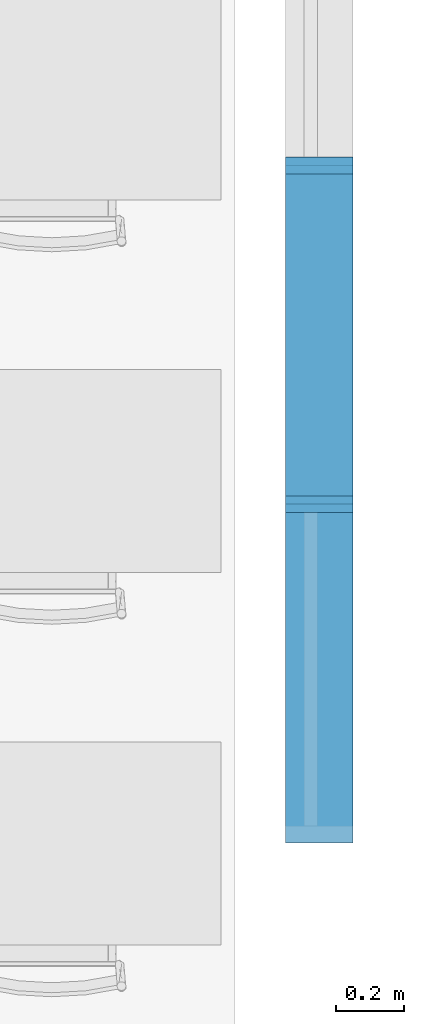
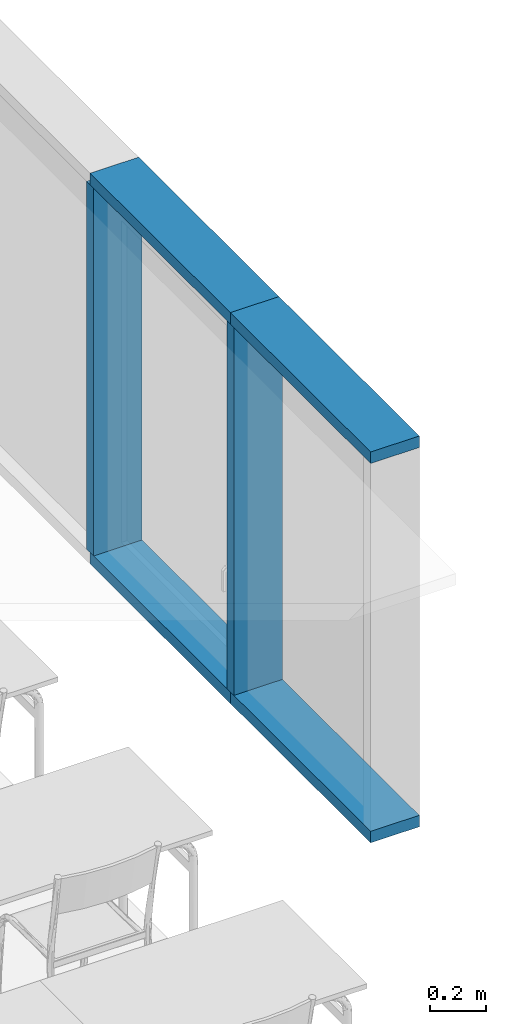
# One storey, part 6 of 44: 18 members, 3 elements without a shape of their own.
"""IFC2X3 building model written with IfcOpenShell, lengths in centimetres."""

from ifc_helpers import new_model, entity, si_unit, converted_unit, derived_unit, direction, frame, frame_2d, origin, origin_2d_with_axis, place, context, subcontext, project, spatial, rectangle, extrude, material, type_object, element, aggregate, save


model = new_model("IFC2X3")

# Units and contexts
model_context = context("Model", 3, precision=0.001, world=origin(), true_north=direction((6.12303176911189e-17, 1.0)))
body_context = subcontext(model_context, "Body", "Model", "MODEL_VIEW")
ifc_project = project(units=[si_unit("LENGTHUNIT", "METRE", prefix="CENTI"), si_unit("AREAUNIT", "SQUARE_METRE"), si_unit("VOLUMEUNIT", "CUBIC_METRE"), converted_unit("PLANEANGLEUNIT", "DEGREE", entity("IfcRatioMeasure", 0.0174532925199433), si_unit("PLANEANGLEUNIT", "RADIAN"), dimensions=[0, 0, 0, 0, 0, 0, 0]), si_unit("MASSUNIT", "GRAM", prefix="KILO"), si_unit("TIMEUNIT", "SECOND"), si_unit("FREQUENCYUNIT", "HERTZ"), si_unit("THERMODYNAMICTEMPERATUREUNIT", "DEGREE_CELSIUS"), derived_unit("THERMALTRANSMITTANCEUNIT", [(si_unit("MASSUNIT", "GRAM", prefix="KILO"), 1), (si_unit("THERMODYNAMICTEMPERATUREUNIT", "KELVIN"), -1), (si_unit("TIMEUNIT", "SECOND"), -3)]), derived_unit("VOLUMETRICFLOWRATEUNIT", [(si_unit("LENGTHUNIT", "METRE"), 3), (si_unit("TIMEUNIT", "SECOND"), -1)]), si_unit("ELECTRICCURRENTUNIT", "AMPERE"), si_unit("ELECTRICVOLTAGEUNIT", "VOLT"), si_unit("POWERUNIT", "WATT"), si_unit("FORCEUNIT", "NEWTON", prefix="KILO"), si_unit("ILLUMINANCEUNIT", "LUX"), si_unit("LUMINOUSFLUXUNIT", "LUMEN"), si_unit("LUMINOUSINTENSITYUNIT", "CANDELA"), derived_unit("USERDEFINED", [(si_unit("MASSUNIT", "GRAM", prefix="KILO"), -1), (si_unit("LENGTHUNIT", "METRE"), -2), (si_unit("TIMEUNIT", "SECOND"), 3), (si_unit("LUMINOUSFLUXUNIT", "LUMEN"), 1)]), derived_unit("LINEARVELOCITYUNIT", [(si_unit("LENGTHUNIT", "METRE"), 1), (si_unit("TIMEUNIT", "SECOND"), -1)]), si_unit("PRESSUREUNIT", "PASCAL"), derived_unit("USERDEFINED", [(si_unit("LENGTHUNIT", "METRE"), -2), (si_unit("MASSUNIT", "GRAM", prefix="KILO"), 1), (si_unit("TIMEUNIT", "SECOND"), -2)])], contexts=[model_context])

# Site, building, storey
site_placement = place(None, frame((8.62739174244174, -249.285249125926, 0.0)))
site = spatial("IfcSite", under=ifc_project, at=site_placement, Name="Default", CompositionType="ELEMENT")
building_placement = place(site_placement, origin())
building = spatial("IfcBuilding", under=site, at=building_placement, CompositionType="ELEMENT")
storey_placement = place(building_placement, frame((0.0, 0.0, 343.0)))
storey = spatial("IfcBuildingStorey", under=building, at=storey_placement, Name="R+1", CompositionType="ELEMENT", Elevation=343.0)

# Curtain wall, members
curtain_wall_type = type_object("IfcCurtainWallType", Name="Mur-rideau:Simple panneau", PredefinedType="NOTDEFINED")
curtain_wall_1_placement = place(storey_placement, frame((0.0, 0.0, -343.0)))
curtain_wall_1 = element("IfcCurtainWall", 1, at=curtain_wall_1_placement, inside=storey, type_object=curtain_wall_type, Name="Mur-rideau:Simple panneau", ObjectType="Mur-rideau:Simple panneau")
ifc_material = material(Name="Plastique, blanc opaque")
member_1_placement = place(curtain_wall_1_placement, frame((0.0, 0.0, 343.0)))
member_1 = element("IfcMember", 2, at=member_1_placement, material=ifc_material, Name="Mur-rideau:Simple panneau", ObjectType="Mur-rideau:Simple panneau", context=body_context, shape_type="SweptSolid", body=[
    extrude(rectangle(XDim=4.99999999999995, YDim=20.0000000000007, at=origin_2d_with_axis()), frame((4003.90482781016, 2741.68519336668, 275.499999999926), z_axis=(0.0, 1.0, 0.0), x_axis=(0.0, 0.0, -1.0)), (0.0, 0.0, 1.0), 100.000000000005),
])
member_2_placement = place(curtain_wall_1_placement, frame((0.0, 0.0, 343.0)))
member_2 = element("IfcMember", 3, at=member_2_placement, material=ifc_material, Name="Mur-rideau:Simple panneau", ObjectType="Mur-rideau:Simple panneau", context=body_context, shape_type="SweptSolid", body=[
    extrude(rectangle(XDim=20.0000000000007, YDim=4.99999999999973, at=origin_2d_with_axis()), frame((4003.90482781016, 2841.68519336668, 113.0), z_axis=(0.0, 0.0, 1.0), x_axis=(-1.0, 0.0, 0.0)), (0.0, 0.0, 1.0), 160.0),
])
member_3_placement = place(curtain_wall_1_placement, frame((0.0, 0.0, 343.0)))
member_3 = element("IfcMember", 4, at=member_3_placement, material=ifc_material, Name="Mur-rideau:Simple panneau", ObjectType="Mur-rideau:Simple panneau", context=body_context, shape_type="SweptSolid", body=[
    extrude(rectangle(XDim=20.0000000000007, YDim=4.99999999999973, at=origin_2d_with_axis()), frame((4003.90482781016, 2941.68519336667, 113.0), z_axis=(0.0, 0.0, 1.0), x_axis=(-1.0, 0.0, 0.0)), (0.0, 0.0, 1.0), 160.0),
])
member_4_placement = place(curtain_wall_1_placement, frame((0.0, 0.0, 343.0)))
member_4 = element("IfcMember", 5, at=member_4_placement, material=ifc_material, Name="Mur-rideau:Simple panneau", ObjectType="Mur-rideau:Simple panneau", context=body_context, shape_type="SweptSolid", body=[
    extrude(rectangle(XDim=5.0, YDim=20.0000000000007, at=frame_2d((-2.70894418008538e-14, 0.0), x_axis=(1.0, 0.0))), frame((4003.90482781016, 2841.68519336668, 110.499999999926), z_axis=(0.0, -1.0, 0.0), x_axis=(0.0, 0.0, -1.0)), (0.0, 0.0, 1.0), 100.000000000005),
])
member_5_placement = place(curtain_wall_1_placement, frame((0.0, 0.0, 343.0)))
member_5 = element("IfcMember", 6, at=member_5_placement, material=ifc_material, Name="Mur-rideau:Simple panneau", ObjectType="Mur-rideau:Simple panneau", context=body_context, shape_type="SweptSolid", body=[
    extrude(rectangle(XDim=5.0, YDim=20.0000000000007, at=frame_2d((-2.70894418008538e-14, 0.0), x_axis=(1.0, 0.0))), frame((4003.90482781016, 2941.68519336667, 110.499999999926), z_axis=(0.0, -1.0, 0.0), x_axis=(0.0, 0.0, -1.0)), (0.0, 0.0, 1.0), 99.9999999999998),
])
member_6_placement = place(curtain_wall_1_placement, frame((0.0, 0.0, 343.0)))
member_6 = element("IfcMember", 7, at=member_6_placement, material=ifc_material, Name="Mur-rideau:Simple panneau", ObjectType="Mur-rideau:Simple panneau", context=body_context, shape_type="SweptSolid", body=[
    extrude(rectangle(XDim=4.99999999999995, YDim=20.0000000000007, at=origin_2d_with_axis()), frame((4003.90482781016, 2841.68519336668, 275.499999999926), z_axis=(0.0, 1.0, 0.0), x_axis=(0.0, 0.0, -1.0)), (0.0, 0.0, 1.0), 99.9999999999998),
])
aggregate(curtain_wall_1, [member_1, member_2, member_3, member_4, member_5, member_6])

curtain_wall_2_placement = place(storey_placement, frame((0.0, 0.0, -343.0)))
curtain_wall_2 = element("IfcCurtainWall", 8, at=curtain_wall_2_placement, inside=storey, type_object=curtain_wall_type, Name="Mur-rideau:Simple panneau", ObjectType="Mur-rideau:Simple panneau")
member_7_placement = place(curtain_wall_2_placement, frame((0.0, 0.0, 343.0)))
member_7 = element("IfcMember", 9, at=member_7_placement, material=ifc_material, Name="Mur-rideau:Simple panneau", ObjectType="Mur-rideau:Simple panneau", context=body_context, shape_type="SweptSolid", body=[
    extrude(rectangle(XDim=4.99999999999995, YDim=20.0000000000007, at=origin_2d_with_axis()), frame((4003.90482781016, 2741.68519336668, 275.499999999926), z_axis=(0.0, 1.0, 0.0), x_axis=(0.0, 0.0, -1.0)), (0.0, 0.0, 1.0), 100.000000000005),
])
member_8_placement = place(curtain_wall_2_placement, frame((0.0, 0.0, 343.0)))
member_8 = element("IfcMember", 10, at=member_8_placement, material=ifc_material, Name="Mur-rideau:Simple panneau", ObjectType="Mur-rideau:Simple panneau", context=body_context, shape_type="SweptSolid", body=[
    extrude(rectangle(XDim=20.0000000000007, YDim=4.99999999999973, at=origin_2d_with_axis()), frame((4003.90482781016, 2841.68519336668, 113.0), z_axis=(0.0, 0.0, 1.0), x_axis=(-1.0, 0.0, 0.0)), (0.0, 0.0, 1.0), 160.0),
])
member_9_placement = place(curtain_wall_2_placement, frame((0.0, 0.0, 343.0)))
member_9 = element("IfcMember", 11, at=member_9_placement, material=ifc_material, Name="Mur-rideau:Simple panneau", ObjectType="Mur-rideau:Simple panneau", context=body_context, shape_type="SweptSolid", body=[
    extrude(rectangle(XDim=20.0000000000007, YDim=4.99999999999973, at=origin_2d_with_axis()), frame((4003.90482781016, 2941.68519336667, 113.0), z_axis=(0.0, 0.0, 1.0), x_axis=(-1.0, 0.0, 0.0)), (0.0, 0.0, 1.0), 160.0),
])
member_10_placement = place(curtain_wall_2_placement, frame((0.0, 0.0, 343.0)))
member_10 = element("IfcMember", 12, at=member_10_placement, material=ifc_material, Name="Mur-rideau:Simple panneau", ObjectType="Mur-rideau:Simple panneau", context=body_context, shape_type="SweptSolid", body=[
    extrude(rectangle(XDim=5.0, YDim=20.0000000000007, at=frame_2d((-2.70894418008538e-14, 0.0), x_axis=(1.0, 0.0))), frame((4003.90482781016, 2841.68519336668, 110.499999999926), z_axis=(0.0, -1.0, 0.0), x_axis=(0.0, 0.0, -1.0)), (0.0, 0.0, 1.0), 100.000000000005),
])
member_11_placement = place(curtain_wall_2_placement, frame((0.0, 0.0, 343.0)))
member_11 = element("IfcMember", 13, at=member_11_placement, material=ifc_material, Name="Mur-rideau:Simple panneau", ObjectType="Mur-rideau:Simple panneau", context=body_context, shape_type="SweptSolid", body=[
    extrude(rectangle(XDim=5.0, YDim=20.0000000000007, at=frame_2d((-2.70894418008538e-14, 0.0), x_axis=(1.0, 0.0))), frame((4003.90482781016, 2941.68519336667, 110.499999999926), z_axis=(0.0, -1.0, 0.0), x_axis=(0.0, 0.0, -1.0)), (0.0, 0.0, 1.0), 99.9999999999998),
])
member_12_placement = place(curtain_wall_2_placement, frame((0.0, 0.0, 343.0)))
member_12 = element("IfcMember", 14, at=member_12_placement, material=ifc_material, Name="Mur-rideau:Simple panneau", ObjectType="Mur-rideau:Simple panneau", context=body_context, shape_type="SweptSolid", body=[
    extrude(rectangle(XDim=4.99999999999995, YDim=20.0000000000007, at=origin_2d_with_axis()), frame((4003.90482781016, 2841.68519336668, 275.499999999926), z_axis=(0.0, 1.0, 0.0), x_axis=(0.0, 0.0, -1.0)), (0.0, 0.0, 1.0), 99.9999999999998),
])
aggregate(curtain_wall_2, [member_7, member_8, member_9, member_10, member_11, member_12])

curtain_wall_3_placement = place(storey_placement, frame((0.0, 0.0, -343.0)))
curtain_wall_3 = element("IfcCurtainWall", 15, at=curtain_wall_3_placement, inside=storey, type_object=curtain_wall_type, Name="Mur-rideau:Simple panneau", ObjectType="Mur-rideau:Simple panneau")
member_13_placement = place(curtain_wall_3_placement, frame((0.0, 0.0, 343.0)))
member_13 = element("IfcMember", 16, at=member_13_placement, material=ifc_material, Name="Mur-rideau:Simple panneau", ObjectType="Mur-rideau:Simple panneau", context=body_context, shape_type="SweptSolid", body=[
    extrude(rectangle(XDim=4.99999999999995, YDim=20.0000000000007, at=origin_2d_with_axis()), frame((4003.90482781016, 2741.68519336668, 275.499999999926), z_axis=(0.0, 1.0, 0.0), x_axis=(0.0, 0.0, -1.0)), (0.0, 0.0, 1.0), 100.000000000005),
])
member_14_placement = place(curtain_wall_3_placement, frame((0.0, 0.0, 343.0)))
member_14 = element("IfcMember", 17, at=member_14_placement, material=ifc_material, Name="Mur-rideau:Simple panneau", ObjectType="Mur-rideau:Simple panneau", context=body_context, shape_type="SweptSolid", body=[
    extrude(rectangle(XDim=20.0000000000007, YDim=4.99999999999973, at=origin_2d_with_axis()), frame((4003.90482781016, 2841.68519336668, 113.0), z_axis=(0.0, 0.0, 1.0), x_axis=(-1.0, 0.0, 0.0)), (0.0, 0.0, 1.0), 160.0),
])
member_15_placement = place(curtain_wall_3_placement, frame((0.0, 0.0, 343.0)))
member_15 = element("IfcMember", 18, at=member_15_placement, material=ifc_material, Name="Mur-rideau:Simple panneau", ObjectType="Mur-rideau:Simple panneau", context=body_context, shape_type="SweptSolid", body=[
    extrude(rectangle(XDim=20.0000000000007, YDim=4.99999999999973, at=origin_2d_with_axis()), frame((4003.90482781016, 2941.68519336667, 113.0), z_axis=(0.0, 0.0, 1.0), x_axis=(-1.0, 0.0, 0.0)), (0.0, 0.0, 1.0), 160.0),
])
member_16_placement = place(curtain_wall_3_placement, frame((0.0, 0.0, 343.0)))
member_16 = element("IfcMember", 19, at=member_16_placement, material=ifc_material, Name="Mur-rideau:Simple panneau", ObjectType="Mur-rideau:Simple panneau", context=body_context, shape_type="SweptSolid", body=[
    extrude(rectangle(XDim=5.0, YDim=20.0000000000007, at=frame_2d((-2.70894418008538e-14, 0.0), x_axis=(1.0, 0.0))), frame((4003.90482781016, 2841.68519336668, 110.499999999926), z_axis=(0.0, -1.0, 0.0), x_axis=(0.0, 0.0, -1.0)), (0.0, 0.0, 1.0), 100.000000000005),
])
member_17_placement = place(curtain_wall_3_placement, frame((0.0, 0.0, 343.0)))
member_17 = element("IfcMember", 20, at=member_17_placement, material=ifc_material, Name="Mur-rideau:Simple panneau", ObjectType="Mur-rideau:Simple panneau", context=body_context, shape_type="SweptSolid", body=[
    extrude(rectangle(XDim=5.0, YDim=20.0000000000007, at=frame_2d((-2.70894418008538e-14, 0.0), x_axis=(1.0, 0.0))), frame((4003.90482781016, 2941.68519336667, 110.499999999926), z_axis=(0.0, -1.0, 0.0), x_axis=(0.0, 0.0, -1.0)), (0.0, 0.0, 1.0), 99.9999999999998),
])
member_18_placement = place(curtain_wall_3_placement, frame((0.0, 0.0, 343.0)))
member_18 = element("IfcMember", 21, at=member_18_placement, material=ifc_material, Name="Mur-rideau:Simple panneau", ObjectType="Mur-rideau:Simple panneau", context=body_context, shape_type="SweptSolid", body=[
    extrude(rectangle(XDim=4.99999999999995, YDim=20.0000000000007, at=origin_2d_with_axis()), frame((4003.90482781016, 2841.68519336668, 275.499999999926), z_axis=(0.0, 1.0, 0.0), x_axis=(0.0, 0.0, -1.0)), (0.0, 0.0, 1.0), 99.9999999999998),
])
aggregate(curtain_wall_3, [member_13, member_14, member_15, member_16, member_17, member_18])

save(model, "model.ifc")
